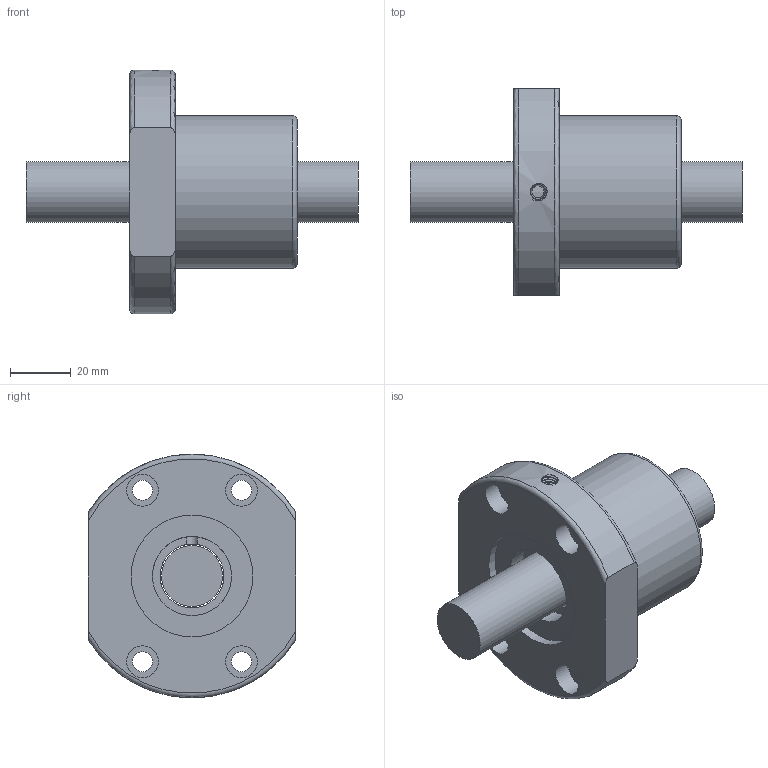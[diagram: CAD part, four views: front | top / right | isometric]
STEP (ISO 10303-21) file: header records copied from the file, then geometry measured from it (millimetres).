
FILE_DESCRIPTION (( 'STEP AP203' ), '1' );
FILE_NAME ('SFK2002.STEP', '2023-07-31T05:51:31', ( '' ), ( '' ), 'SwSTEP 2.0', 'SolidWorks 2022', '' );
FILE_SCHEMA (( 'CONFIG_CONTROL_DESIGN' ));
Length unit declared in the file: millimetre
Products named in the file (1): SFK2002
Bounding box: 109 x 68 x 80 mm (x, y, z)
Volume: 155070.6 mm3; surface area: 31514.6 mm2
Topology: 2 solids, 2 shells, 42 faces, 95 edges, 63 vertices
Faces by surface type: cylinder 19, plane 15, torus 5, bspline 2, cone 1
Full cylindrical faces by diameter (mm): 4 x1, 6.6 x4, 10.5 x4, 20 x1, 21 x1, 26 x2, 40 x1, 50 x1
Entity records: 3290 total; most frequent: CARTESIAN_POINT 2369, DIRECTION 174, ORIENTED_EDGE 142, AXIS2_PLACEMENT_3D 82, EDGE_LOOP 77, EDGE_CURVE 71, FACE_OUTER_BOUND 58, VERTEX_POINT 56
